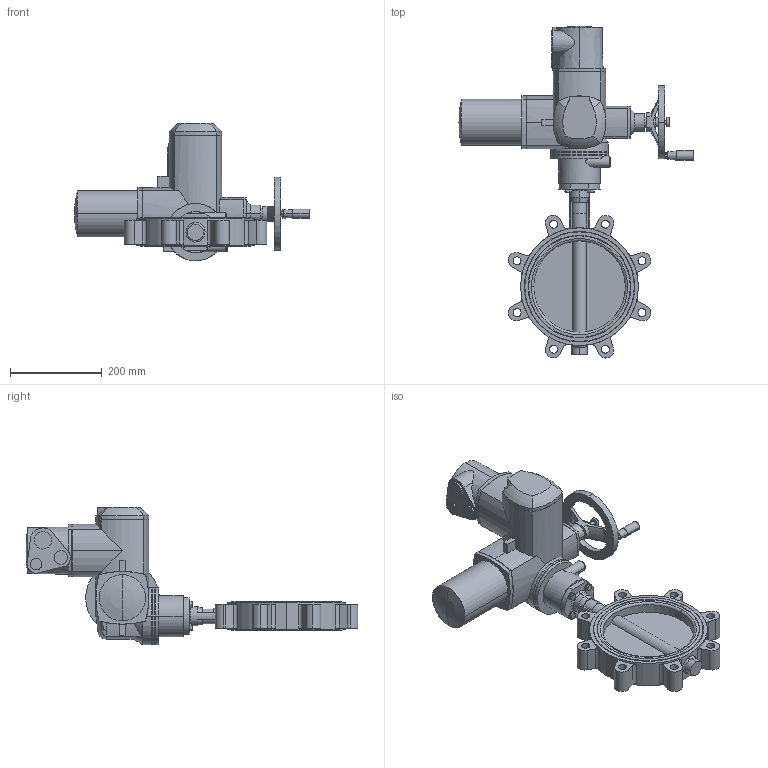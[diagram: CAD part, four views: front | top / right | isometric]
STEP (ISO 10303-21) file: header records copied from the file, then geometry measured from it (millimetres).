
FILE_DESCRIPTION (( 'STEP AP214' ), '1' );
FILE_NAME ('67551.step', '2020-10-23T13:46:47', ( '' ), ( '' ), 'SwSTEP 2.0', 'SolidWorks 2019', '' );
FILE_SCHEMA (( 'AUTOMOTIVE_DESIGN' ));
Length unit declared in the file: millimetre
Products named in the file (7): Gewindestift mit Kegelkuppe und In-6kt DIN 913 A4_Gewindestift mit In-6kt M5x10; TL20-0200_M01; 54377_SQ05.2 F05-F07-VK17; SQ(R) 05.2_SQ 05.2 Drehstrommotor; 6kt-Schr DIN 933_M8x25; 67551; U-Scheibe DIN 125 A_M8
Assembly tree (12 placements, depth 2):
  67551
    TL20-0200_M01
    U-Scheibe DIN 125 A_M8  x4
    6kt-Schr DIN 933_M8x25  x4
    SQ(R) 05.2_SQ 05.2 Drehstrommotor
    54377_SQ05.2 F05-F07-VK17
    Gewindestift mit Kegelkuppe und In-6kt DIN 913 A4_Gewindestift mit In-6kt M5x10
Bounding box: 512.7 x 724.07 x 300.3 mm (x, y, z)
Volume: 10161977.2 mm3; surface area: 660958.1 mm2
Topology: 12 solids, 12 shells, 750 faces, 1874 edges, 1191 vertices
Faces by surface type: plane 367, cylinder 243, cone 117, bspline 13, torus 6, sphere 4
Entity records: 28540 total; most frequent: CARTESIAN_POINT 8269, DIRECTION 3409, ORIENTED_EDGE 3326, EDGE_CURVE 1663, AXIS2_PLACEMENT_3D 1267, VERTEX_POINT 1069, VECTOR 875, LINE 875
